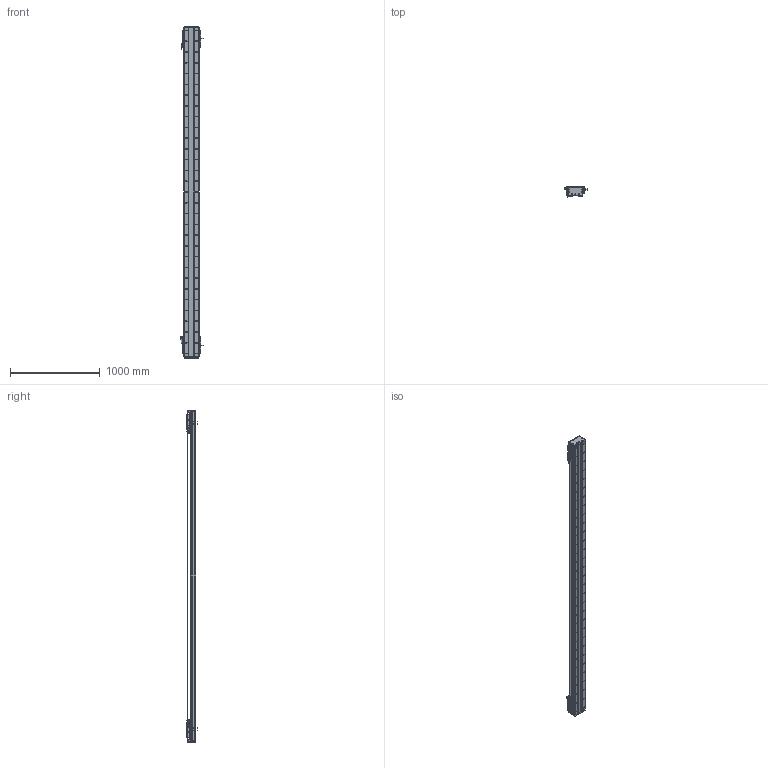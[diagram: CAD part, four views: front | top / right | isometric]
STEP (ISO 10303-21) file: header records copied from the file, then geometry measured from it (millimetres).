
FILE_DESCRIPTION (( 'STEP AP203' ), '1' );
FILE_NAME ('DA-C165-2-C2-T3200-C010-0.2 直线电机.STEP', '2023-05-11T08:34:42', ( '微软用户' ), ( '微软中国' ), 'SwSTEP 2.0', 'SolidWorks 2019', '' );
FILE_SCHEMA (( 'CONFIG_CONTROL_DESIGN' ));
Length unit declared in the file: millimetre
Products named in the file (22): 复件 CU165钢带组件^DA-C165-C2-T-C010-0.2-N 直线电机; 复件 六角薄螺母 M3^DA-C165-C2-T-C010-0.2-N 直线电机_GB_FASTENER_NUT_STNAB M3-C; IU-CU165-L 菁釱絳寢; 葩璃 CKM01-W075-TRL^DA-C165-C2-T-C010-0.2-N 眻盄萇儂; 葩璃 PM-T45^DA-C165-C2-T-C010-0.2-N 眻盄萇儂; 复件 DA165-GD-1860-002-00 钢带盖板^复件 CU165钢带组件_DA-C165-C2-T-C010-0.2-N 直线电机; 葩璃 DA95-GT-T-00^IU-CU165-L 菁釱絳寢_T; 复件 CKM02-W075-C1C2-TP-3.0 一体电机-C2^DA-C165-C2-T-C010-0.2-N 直线电机; 复件 DA165-GDLK-00 钢带拉块^复件 CU165钢带组件_DA-C165-C2-T-C010-0.2-N 直线电机; 复件 DA95-HXJ-00 缓冲橡胶^DA-C165-C2-T-C010-0.2-N 直线电机; 复件 XD-U-02L 磁栅尺^DA-C165-C2-T-C010-0.2-N 直线电机_T; 复件 DA165-GDYK-00 钢带压块^复件 CU165钢带组件_DA-C165-C2-T-C010-0.2-N 直线电机; 复件 DKW-HXJ-JY-00 缓冲橡胶^DA-C165-C2-T-C010-0.2-N 直线电机; 复件 DA165-GD-DG-H-00 端盖^复件 CU165钢带组件_DA-C165-C2-T-C010-0.2-N 直线电机; DA-C165-2-C2-T3200-C010-0.2 眻盄萇儂; 复件 DMA-010-0.2 读数头^DA-C165-C2-T-C010-0.2-N 直线电机; 珨极趙賑雄怢啣wf-C2; 葩璃 PM-Y45^DA-C165-C2-T-C010-0.2-N 眻盄萇儂; 复件 DA126-GYP-ZJ-00 中间光电感应片^DA-C165-C2-T-C010-0.2-N 直线电机; 复件 66338-1000-006-00 光电感应块^DA-C165-C2-T-C010-0.2-N 直线电机; IU-CU165-L-00 菁釱_L3660; 复件 DA165-GYP-00 光电感应片^DA-C165-C2-T-C010-0.2-N 直线电机
Assembly tree (43 placements, depth 3):
  DA-C165-2-C2-T3200-C010-0.2 眻盄萇儂
    IU-CU165-L 菁釱絳寢
      IU-CU165-L-00 菁釱_L3660
      葩璃 DA95-GT-T-00^IU-CU165-L 菁釱絳寢_T  x4
    复件 XD-U-02L 磁栅尺^DA-C165-C2-T-C010-0.2-N 直线电机_T
    葩璃 PM-T45^DA-C165-C2-T-C010-0.2-N 眻盄萇儂  x4
    葩璃 CKM01-W075-TRL^DA-C165-C2-T-C010-0.2-N 眻盄萇儂
    复件 CU165钢带组件^DA-C165-C2-T-C010-0.2-N 直线电机
      复件 DA165-GD-DG-H-00 端盖^复件 CU165钢带组件_DA-C165-C2-T-C010-0.2-N 直线电机  x2
      复件 DA165-GDYK-00 钢带压块^复件 CU165钢带组件_DA-C165-C2-T-C010-0.2-N 直线电机  x2
      复件 DA165-GD-1860-002-00 钢带盖板^复件 CU165钢带组件_DA-C165-C2-T-C010-0.2-N 直线电机
      复件 DA165-GDLK-00 钢带拉块^复件 CU165钢带组件_DA-C165-C2-T-C010-0.2-N 直线电机  x2
    复件 DA95-HXJ-00 缓冲橡胶^DA-C165-C2-T-C010-0.2-N 直线电机  x4
    复件 CKM02-W075-C1C2-TP-3.0 一体电机-C2^DA-C165-C2-T-C010-0.2-N 直线电机  x2
    复件 DMA-010-0.2 读数头^DA-C165-C2-T-C010-0.2-N 直线电机  x2
    复件 DA165-GYP-00 光电感应片^DA-C165-C2-T-C010-0.2-N 直线电机  x2
    复件 66338-1000-006-00 光电感应块^DA-C165-C2-T-C010-0.2-N 直线电机
    葩璃 PM-Y45^DA-C165-C2-T-C010-0.2-N 眻盄萇儂
    复件 DA126-GYP-ZJ-00 中间光电感应片^DA-C165-C2-T-C010-0.2-N 直线电机
    复件 DKW-HXJ-JY-00 缓冲橡胶^DA-C165-C2-T-C010-0.2-N 直线电机  x2
    复件 六角薄螺母 M3^DA-C165-C2-T-C010-0.2-N 直线电机_GB_FASTENER_NUT_STNAB M3-C  x6
    珨极趙賑雄怢啣wf-C2  x2
Bounding box: 247.2 x 111.45 x 3700 mm (x, y, z)
Volume: 21311258 mm3; surface area: 6346358.8 mm2
Topology: 119 solids, 119 shells, 6199 faces, 17944 edges, 11410 vertices
Faces by surface type: cylinder 3564, plane 1843, cone 704, torus 80, sphere 8
Entity records: 163710 total; most frequent: CARTESIAN_POINT 46363, ORIENTED_EDGE 24832, DIRECTION 23276, EDGE_CURVE 12416, AXIS2_PLACEMENT_3D 8898, VERTEX_POINT 8147, EDGE_LOOP 5579, LINE 5480
